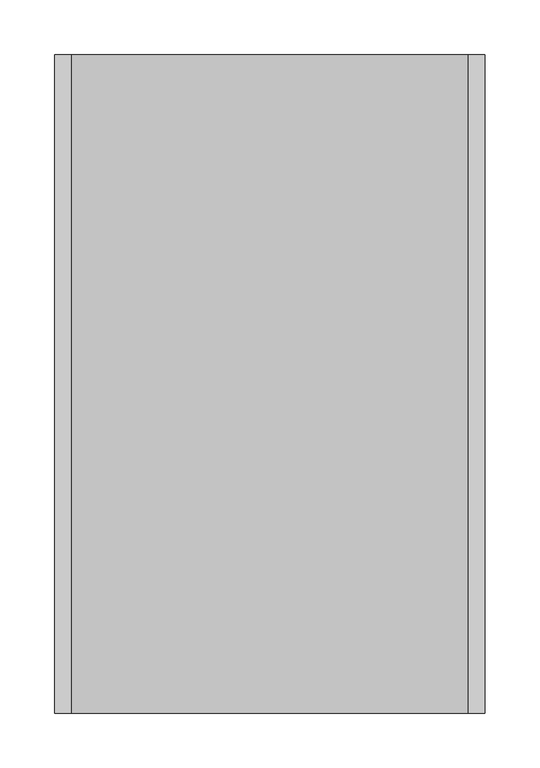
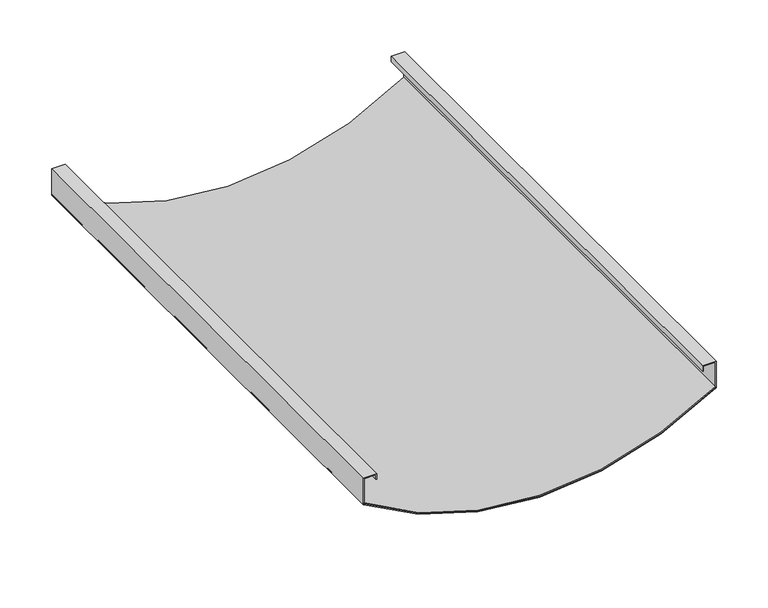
"""IFC4 building model written with IfcOpenShell, lengths in millimetres: proxy geometry, durlum_S7_DOMUS_ALT_panel : durlum_S7_DOMUS_panel_wall_length_cut."""

from ifc_helpers import new_model, si_unit, point, frame, frame_2d, origin, place, context, project, spatial, polyline, circle_curve, trimmed, segment, composite_curve, outline, extrude, source, transform, mapped, element, save


def generic_models_b18b6bec(model_context):
    return source(origin(), model_context, "Body", "SweptSolid", [
        extrude(outline(composite_curve([segment(polyline([(0.5317373, 195.0), (1.7380876, 195.0)]), True, "CONTINUOUS"), segment(trimmed(circle_curve(frame_2d((290.1333333, 0.0)), 348.1333333), [point((1.7380876, 195.0))], [point((1.7380876, -195.0))], True, "CARTESIAN"), True, "CONTINUOUS"), segment(polyline([(1.7380876, -195.0), (0.5317373, -195.0)]), True, "CONTINUOUS"), segment(trimmed(circle_curve(frame_2d((290.1333333, 0.0)), 349.1333333), [point((0.5317373, -195.0))], [point((0.5317373, 195.0))], False, "CARTESIAN"), True, "CONTINUOUS")], self_intersect=False)), frame((0.0, -299.75, 0.0), z_axis=(0.0, 1.0, 0.0), x_axis=(0.0, 0.0, 1.0)), (0.0, 0.0, 1.0), 599.5),
        extrude(outline(polyline([(31.0, -196.0), (0.0, -196.0), (0.0, -195.0), (30.0, -195.0), (30.0, -182.0), (24.5, -182.0), (24.5, -181.0), (31.0, -181.0), (31.0, -196.0)])), frame((0.0, -299.75, 0.0), z_axis=(0.0, 1.0, 0.0), x_axis=(0.0, 0.0, 1.0)), (0.0, 0.0, 1.0), 599.5),
        extrude(outline(polyline([(31.0, 196.0), (31.0, 181.0), (24.5, 181.0), (24.5, 182.0), (30.0, 182.0), (30.0, 195.0), (0.0, 195.0), (0.0, 196.0), (31.0, 196.0)])), frame((0.0, -299.75, 0.0), z_axis=(0.0, 1.0, 0.0), x_axis=(0.0, 0.0, 1.0)), (0.0, 0.0, 1.0), 599.5),
        extrude(outline(composite_curve([segment(trimmed(circle_curve(frame_2d((290.1333333, 0.0)), 350.1333333), [point((0.0, -196.0))], [point((0.0, 196.0))], False, "CARTESIAN"), True, "CONTINUOUS"), segment(polyline([(0.0, 196.0), (1.2075912, 196.0)]), True, "CONTINUOUS"), segment(trimmed(circle_curve(frame_2d((290.1333333, 0.0)), 349.1333333), [point((1.2075912, 196.0))], [point((1.2075912, -196.0))], True, "CARTESIAN"), True, "CONTINUOUS"), segment(polyline([(1.2075912, -196.0), (0.0, -196.0)]), True, "CONTINUOUS")], self_intersect=False)), frame((0.0, -299.75, 0.0), z_axis=(0.0, 1.0, 0.0), x_axis=(0.0, 0.0, 1.0)), (0.0, 0.0, 1.0), 599.5),
    ])


if __name__ == "__main__":
    model = new_model("IFC4")
    model_context = context("Model", 3, world=origin())
    ifc_project = project(units=[si_unit("LENGTHUNIT", "METRE", prefix="MILLI")], contexts=[model_context])
    site = spatial("IfcSite", under=ifc_project)
    building = spatial("IfcBuilding", under=site)
    placement = place(None, origin())
    generic_models_shape = generic_models_b18b6bec(model_context)
    element("IfcBuildingElementProxy", 1, Name="durlum_S7_DOMUS_ALT_panel : durlum_S7_DOMUS_panel_wall_length_cut", ObjectType="durlum_S7_DOMUS_ALT_panel : durlum_S7_DOMUS_panel_wall_length_cut", at=placement, inside=building, context=model_context, shape_type="MappedRepresentation", body=[
        mapped(generic_models_shape, transform((0.0, 0.0, 0.0), x_axis=(1.0, 0.0, 0.0), y_axis=(0.0, 1.0, 0.0), z_axis=(0.0, 0.0, 1.0))),
    ])
    save(model, "model.ifc")
